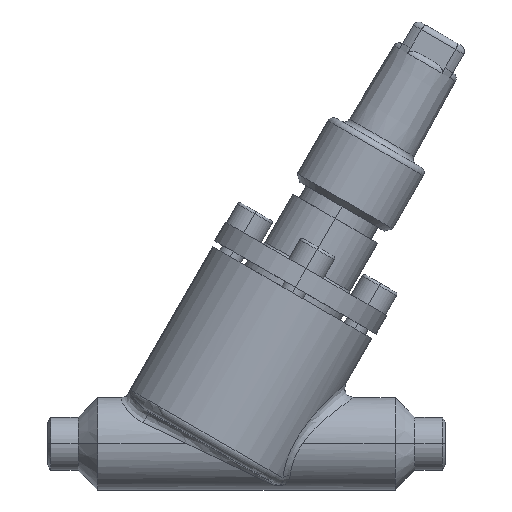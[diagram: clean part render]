
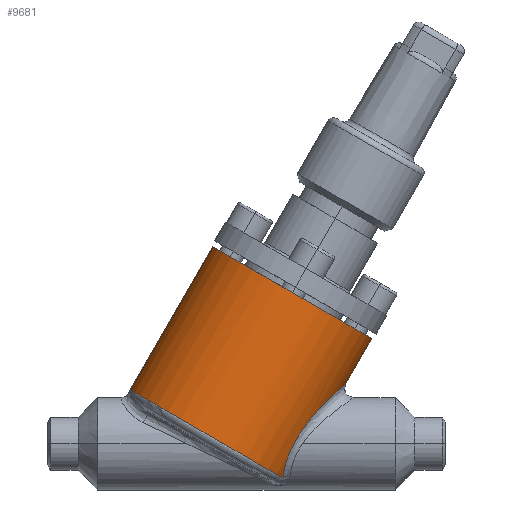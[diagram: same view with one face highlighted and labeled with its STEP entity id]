
A CAD part, top view. The second image highlights one B-rep face of the part: STEP entity #9681.
In plain terms, the highlighted cylindrical face has radius 30 mm (diameter 60 mm), a partial arc.
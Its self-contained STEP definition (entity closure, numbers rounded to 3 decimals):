
#16464 = EDGE_CURVE ( 'NONE', #8403, #4024, #11161, .T. ) ;
#647 = CIRCLE ( 'NONE', #648, 30. ) ;
#648 = AXIS2_PLACEMENT_3D ( 'NONE', #649, #650, #651 ) ;
#649 = CARTESIAN_POINT ( 'NONE',  ( 52.981, 2.598, 0. ) ) ;
#650 = DIRECTION ( 'NONE',  ( 0.5, 0.866, 0. ) ) ;
#651 = DIRECTION ( 'NONE',  ( -0.866, 0.5, 0. ) ) ;
#17423 = CARTESIAN_POINT ( 'NONE',  ( 76.85, -11.183, 11.847 ) ) ;
#4024 = VERTEX_POINT ( 'NONE', #13821 ) ;
#7861 = ORIENTED_EDGE ( 'NONE', *, *, #16464, .T. ) ;
#8193 = VERTEX_POINT ( 'NONE', #13521 ) ;
#8403 = VERTEX_POINT ( 'NONE', #13765 ) ;
#8611 = EDGE_CURVE ( 'NONE', #8403, #8193, #13861, .T. ) ;
#8963 = ORIENTED_EDGE ( 'NONE', *, *, #8611, .F. ) ;
#9455 = EDGE_LOOP ( 'NONE', ( #8963, #7861, #15972, #14600, #13548 ) ) ;
#9681 = ADVANCED_FACE ( 'NONE', ( #15941 ), #15942, .T. ) ;
#11161 = LINE ( 'NONE', #11162, #11163 ) ;
#11162 = CARTESIAN_POINT ( 'NONE',  ( 54., 64.363, 0. ) ) ;
#11163 = VECTOR ( 'NONE', #11164, 1000. ) ;
#11164 = DIRECTION ( 'NONE',  ( -0.5, -0.866, 0. ) ) ;
#13196 = EDGE_CURVE ( 'NONE', #8193, #14040, #13938, .T. ) ;
#13521 = CARTESIAN_POINT ( 'NONE',  ( 105.962, 34.363, 0. ) ) ;
#13548 = ORIENTED_EDGE ( 'NONE', *, *, #13196, .F. ) ;
#13765 = CARTESIAN_POINT ( 'NONE',  ( 54., 64.363, 0. ) ) ;
#13821 = CARTESIAN_POINT ( 'NONE',  ( 27., 17.598, 0. ) ) ;
#13861 = CIRCLE ( 'NONE', #13862, 30. ) ;
#13862 = AXIS2_PLACEMENT_3D ( 'NONE', #13863, #13866, #13867 ) ;
#13863 = CARTESIAN_POINT ( 'NONE',  ( 79.981, 49.363, 0. ) ) ;
#13866 = DIRECTION ( 'NONE',  ( 0.5, 0.866, 0. ) ) ;
#13867 = DIRECTION ( 'NONE',  ( -0.866, 0.5, 0. ) ) ;
#13938 = LINE ( 'NONE', #13939, #13940 ) ;
#13939 = CARTESIAN_POINT ( 'NONE',  ( 105.962, 34.363, 0. ) ) ;
#13940 = VECTOR ( 'NONE', #13941, 1000. ) ;
#13941 = DIRECTION ( 'NONE',  ( -0.5, -0.866, 0. ) ) ;
#14040 = VERTEX_POINT ( 'NONE', #15178 ) ;
#14246 = EDGE_CURVE ( 'NONE', #15259, #14040, #15221, .T. ) ;
#14600 = ORIENTED_EDGE ( 'NONE', *, *, #14246, .T. ) ;
#15178 = CARTESIAN_POINT ( 'NONE',  ( 97.438, 19.6, 0. ) ) ;
#15221 = B_SPLINE_CURVE_WITH_KNOTS ( 'NONE', 3,
 ( #15223, #15224, #15225, #15226, #15227, #15228, #15229, #15230, #15231, #15232, #15233, #15234, #15235, #15236, #15237, #15238, #15243, #15244, #15245, #15246, #15247, #15248, #15249, #15250, #15251, #15252, #15253, #15254, #15255, #15256, #15257, #15258, #15262, #15263, #15264, #15265, #15266, #15267, #15268, #15269, #15270, #15271, #15272, #15273, #15274, #15275, #15276, #15277 ),
 .UNSPECIFIED., .F., .F.,
 ( 4, 2, 2, 2, 2, 2, 2, 2, 2, 2, 2, 2, 2, 2, 2, 2, 2, 2, 2, 2, 2, 2, 2, 4 ),
 ( 0., 0.001, 0.003, 0.006, 0.007, 0.009, 0.012, 0.013, 0.015, 0.018, 0.021, 0.022, 0.023, 0.029, 0.032, 0.035, 0.037, 0.038, 0.041, 0.043, 0.044, 0.045, 0.046, 0.047 ),
 .UNSPECIFIED. ) ;
#15223 = CARTESIAN_POINT ( 'NONE',  ( 76.85, -11.183, 11.847 ) ) ;
#15224 = CARTESIAN_POINT ( 'NONE',  ( 76.899, -10.819, 12.172 ) ) ;
#15225 = CARTESIAN_POINT ( 'NONE',  ( 76.955, -10.443, 12.48 ) ) ;
#15226 = CARTESIAN_POINT ( 'NONE',  ( 77.086, -9.668, 13.062 ) ) ;
#15227 = CARTESIAN_POINT ( 'NONE',  ( 77.161, -9.268, 13.338 ) ) ;
#15228 = CARTESIAN_POINT ( 'NONE',  ( 77.413, -8.051, 14.104 ) ) ;
#15229 = CARTESIAN_POINT ( 'NONE',  ( 77.62, -7.214, 14.541 ) ) ;
#15230 = CARTESIAN_POINT ( 'NONE',  ( 77.997, -5.928, 15.093 ) ) ;
#15231 = CARTESIAN_POINT ( 'NONE',  ( 78.134, -5.494, 15.261 ) ) ;
#15232 = CARTESIAN_POINT ( 'NONE',  ( 78.432, -4.617, 15.562 ) ) ;
#15233 = CARTESIAN_POINT ( 'NONE',  ( 78.593, -4.172, 15.696 ) ) ;
#15234 = CARTESIAN_POINT ( 'NONE',  ( 79.107, -2.851, 16.045 ) ) ;
#15235 = CARTESIAN_POINT ( 'NONE',  ( 79.489, -1.977, 16.208 ) ) ;
#15236 = CARTESIAN_POINT ( 'NONE',  ( 80.122, -0.679, 16.365 ) ) ;
#15237 = CARTESIAN_POINT ( 'NONE',  ( 80.343, -0.248, 16.402 ) ) ;
#15238 = CARTESIAN_POINT ( 'NONE',  ( 80.803, 0.61, 16.449 ) ) ;
#15243 = CARTESIAN_POINT ( 'NONE',  ( 81.043, 1.037, 16.458 ) ) ;
#15244 = CARTESIAN_POINT ( 'NONE',  ( 81.779, 2.297, 16.445 ) ) ;
#15245 = CARTESIAN_POINT ( 'NONE',  ( 82.297, 3.112, 16.384 ) ) ;
#15246 = CARTESIAN_POINT ( 'NONE',  ( 83.374, 4.703, 16.171 ) ) ;
#15247 = CARTESIAN_POINT ( 'NONE',  ( 83.934, 5.479, 16.019 ) ) ;
#15248 = CARTESIAN_POINT ( 'NONE',  ( 84.801, 6.617, 15.726 ) ) ;
#15249 = CARTESIAN_POINT ( 'NONE',  ( 85.095, 6.992, 15.618 ) ) ;
#15250 = CARTESIAN_POINT ( 'NONE',  ( 85.684, 7.728, 15.382 ) ) ;
#15251 = CARTESIAN_POINT ( 'NONE',  ( 85.981, 8.09, 15.254 ) ) ;
#15252 = CARTESIAN_POINT ( 'NONE',  ( 87.472, 9.87, 14.566 ) ) ;
#15253 = CARTESIAN_POINT ( 'NONE',  ( 88.689, 11.203, 13.865 ) ) ;
#15254 = CARTESIAN_POINT ( 'NONE',  ( 90.504, 13.088, 12.555 ) ) ;
#15255 = CARTESIAN_POINT ( 'NONE',  ( 91.099, 13.689, 12.08 ) ) ;
#15256 = CARTESIAN_POINT ( 'NONE',  ( 92.261, 14.836, 11.045 ) ) ;
#15257 = CARTESIAN_POINT ( 'NONE',  ( 92.827, 15.381, 10.484 ) ) ;
#15258 = CARTESIAN_POINT ( 'NONE',  ( 93.643, 16.155, 9.565 ) ) ;
#15259 = VERTEX_POINT ( 'NONE', #17423 ) ;
#15262 = CARTESIAN_POINT ( 'NONE',  ( 93.91, 16.406, 9.246 ) ) ;
#15263 = CARTESIAN_POINT ( 'NONE',  ( 94.43, 16.891, 8.577 ) ) ;
#15264 = CARTESIAN_POINT ( 'NONE',  ( 94.683, 17.124, 8.227 ) ) ;
#15265 = CARTESIAN_POINT ( 'NONE',  ( 95.404, 17.786, 7.147 ) ) ;
#15266 = CARTESIAN_POINT ( 'NONE',  ( 95.84, 18.18, 6.378 ) ) ;
#15267 = CARTESIAN_POINT ( 'NONE',  ( 96.402, 18.683, 5.129 ) ) ;
#15268 = CARTESIAN_POINT ( 'NONE',  ( 96.575, 18.837, 4.694 ) ) ;
#15269 = CARTESIAN_POINT ( 'NONE',  ( 96.877, 19.105, 3.803 ) ) ;
#15270 = CARTESIAN_POINT ( 'NONE',  ( 97.006, 19.22, 3.348 ) ) ;
#15271 = CARTESIAN_POINT ( 'NONE',  ( 97.217, 19.406, 2.42 ) ) ;
#15272 = CARTESIAN_POINT ( 'NONE',  ( 97.299, 19.478, 1.946 ) ) ;
#15273 = CARTESIAN_POINT ( 'NONE',  ( 97.382, 19.551, 1.218 ) ) ;
#15274 = CARTESIAN_POINT ( 'NONE',  ( 97.403, 19.57, 0.973 ) ) ;
#15275 = CARTESIAN_POINT ( 'NONE',  ( 97.431, 19.594, 0.485 ) ) ;
#15276 = CARTESIAN_POINT ( 'NONE',  ( 97.438, 19.6, 0.242 ) ) ;
#15277 = CARTESIAN_POINT ( 'NONE',  ( 97.438, 19.6, 0. ) ) ;
#15471 = EDGE_CURVE ( 'NONE', #4024, #15259, #647, .T. ) ;
#15941 = FACE_OUTER_BOUND ( 'NONE', #9455, .T. ) ;
#15942 = CYLINDRICAL_SURFACE ( 'NONE', #15943, 30. ) ;
#15943 = AXIS2_PLACEMENT_3D ( 'NONE', #15944, #15945, #15946 ) ;
#15944 = CARTESIAN_POINT ( 'NONE',  ( 79.981, 49.363, 0. ) ) ;
#15945 = DIRECTION ( 'NONE',  ( -0.5, -0.866, 0. ) ) ;
#15946 = DIRECTION ( 'NONE',  ( 0.866, -0.5, 0. ) ) ;
#15972 = ORIENTED_EDGE ( 'NONE', *, *, #15471, .T. ) ;
